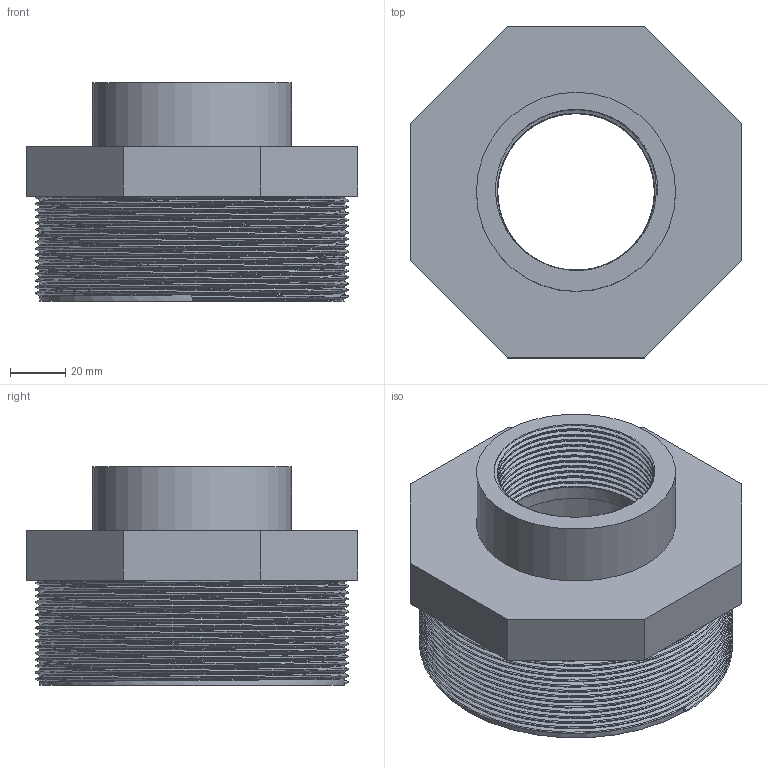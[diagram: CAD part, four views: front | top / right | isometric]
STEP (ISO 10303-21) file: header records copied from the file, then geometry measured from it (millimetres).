
FILE_DESCRIPTION(/* description */ (''),/* implementation_level */ '2;1');
FILE_NAME(/* name */ 'C:\Users\POLYPIPE\Desktop\DATASET INVENTOR\LIBRERIA EFFAST\RACCORDI 3DxWEB\RER\3D_RERRIE\3D_RERRIE110G.stp',/* time_stamp */ '2018-01-19T17:14:28+01:00',/* author */ ('POLYPIPE'),/* organization */ ('Polypipe Italia'),/* preprocessor_version */ 'ST-DEVELOPER v16.1',/* originating_system */ 'Autodesk Inventor 2016',/* authorisation */ '');
FILE_SCHEMA (('CONFIG_CONTROL_DESIGN'));
Length unit declared in the file: millimetre
Products named in the file (1): 3D_RERRIE110G
Bounding box: 120 x 120 x 79 mm (x, y, z)
Volume: 243861.4 mm3; surface area: 77030.3 mm2
Topology: 1 solids, 1 shells, 29 faces, 68 edges, 44 vertices
Faces by surface type: plane 15, bspline 10, cylinder 4
Full cylindrical faces by diameter (mm): 56.656 x1, 72 x1, 97.4 x1, 110.072 x1
Entity records: 11662 total; most frequent: CARTESIAN_POINT 11047, ORIENTED_EDGE 128, DIRECTION 94, EDGE_CURVE 64, VERTEX_POINT 43, EDGE_LOOP 37, AXIS2_PLACEMENT_3D 32, LINE 30
